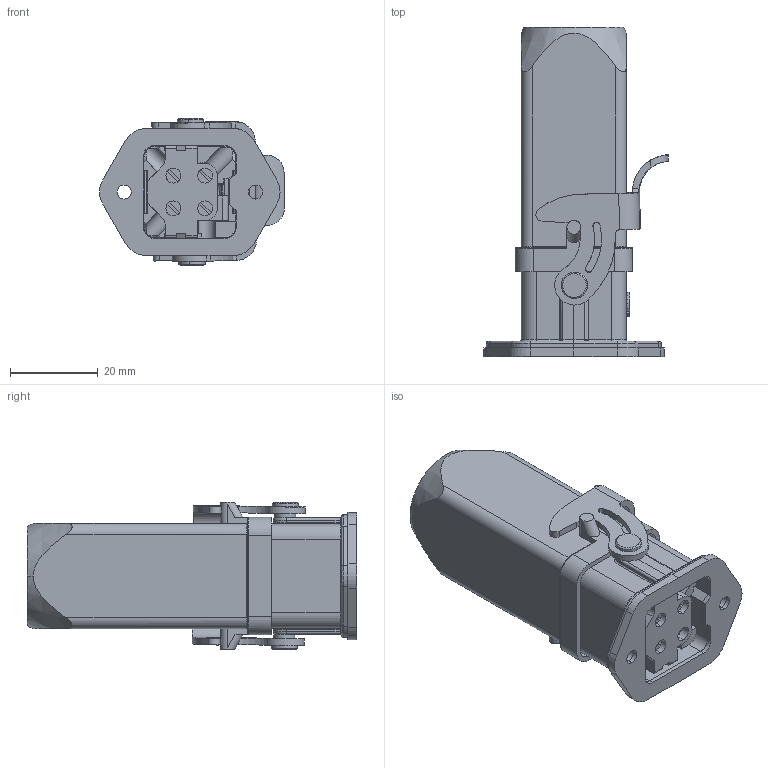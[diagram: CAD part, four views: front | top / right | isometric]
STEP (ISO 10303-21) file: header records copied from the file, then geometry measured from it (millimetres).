
FILE_DESCRIPTION (( 'STEP AP203' ), '1' );
FILE_NAME ('09003002120 HA、3针、开孔底座、顶出20套件.STEP', '2024-04-10T05:44:44', ( 'L' ), ( '' ), 'SwSTEP 2.0', 'SolidWorks 2019', '' );
FILE_SCHEMA (( 'CONFIG_CONTROL_DESIGN' ));
Length unit declared in the file: millimetre
Products named in the file (5): HA-003-M.stp; H3A-MTG-M20.step; HA-003-F.stp; 09003002120 HA、3针、开孔底座、顶出20套件; H3A-MAG.step
Assembly tree (4 placements, depth 2):
  09003002120 HA、3针、开孔底座、顶出20套件
    H3A-MAG.step
    H3A-MTG-M20.step
    HA-003-F.stp
    HA-003-M.stp
Bounding box: 42.19 x 75.2 x 33.67 mm (x, y, z)
Volume: 28453.7 mm3; surface area: 29557.7 mm2
Topology: 6 solids, 6 shells, 1348 faces, 3695 edges, 2389 vertices
Faces by surface type: plane 637, cylinder 480, bspline 139, torus 52, cone 32, sphere 8
Entity records: 51991 total; most frequent: CARTESIAN_POINT 18719, ORIENTED_EDGE 7350, DIRECTION 6187, EDGE_CURVE 3675, VERTEX_POINT 2387, AXIS2_PLACEMENT_3D 2090, LINE 2007, VECTOR 2007
